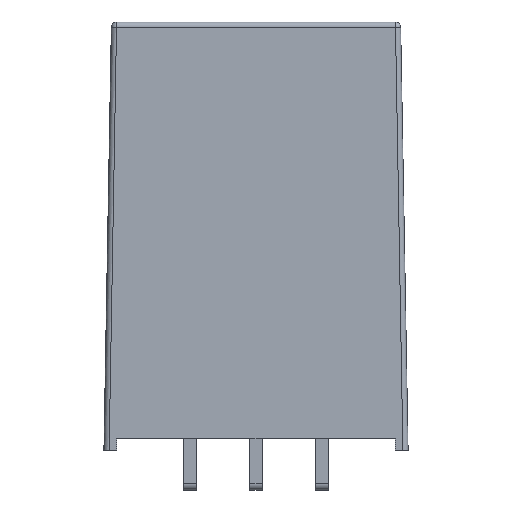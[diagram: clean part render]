
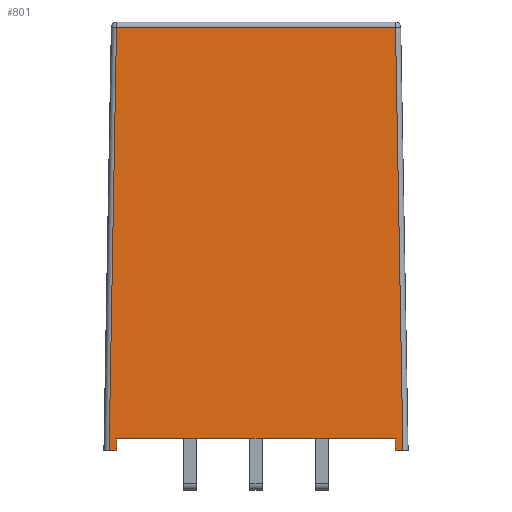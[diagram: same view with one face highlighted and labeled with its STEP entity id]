
A CAD part, front view. The second image highlights one B-rep face of the part: STEP entity #801.
In plain terms, the highlighted planar face has unit normal (0, -1, 0.018).
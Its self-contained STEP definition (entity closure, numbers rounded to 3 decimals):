
#39 = FACE_OUTER_BOUND ( 'NONE', #1576, .T. ) ;
#53 = VECTOR ( 'NONE', #541, 1000. ) ;
#54 = LINE ( 'NONE', #944, #389 ) ;
#98 = DIRECTION ( 'NONE',  ( 0., -0.017, -1. ) ) ;
#121 = CARTESIAN_POINT ( 'NONE',  ( 5.65, -3.75, 0. ) ) ;
#125 = VECTOR ( 'NONE', #1278, 1000. ) ;
#156 = VERTEX_POINT ( 'NONE', #1426 ) ;
#165 = CARTESIAN_POINT ( 'NONE',  ( 5.35, -3.75, 0. ) ) ;
#188 = VERTEX_POINT ( 'NONE', #760 ) ;
#189 = ORIENTED_EDGE ( 'NONE', *, *, #1603, .T. ) ;
#198 = DIRECTION ( 'NONE',  ( 0., 0.017, 1. ) ) ;
#252 = EDGE_CURVE ( 'NONE', #1053, #740, #1658, .T. ) ;
#294 = LINE ( 'NONE', #1640, #701 ) ;
#319 = VECTOR ( 'NONE', #198, 1000. ) ;
#320 = LINE ( 'NONE', #1713, #1704 ) ;
#389 = VECTOR ( 'NONE', #1342, 1000. ) ;
#397 = AXIS2_PLACEMENT_3D ( 'NONE', #1692, #1445, #447 ) ;
#447 = DIRECTION ( 'NONE',  ( 0., -0.017, -1. ) ) ;
#452 = EDGE_CURVE ( 'NONE', #156, #188, #320, .T. ) ;
#480 = LINE ( 'NONE', #878, #125 ) ;
#502 = EDGE_CURVE ( 'NONE', #1645, #156, #1671, .T. ) ;
#541 = DIRECTION ( 'NONE',  ( -0.017, 0.017, 1. ) ) ;
#546 = EDGE_CURVE ( 'NONE', #188, #1563, #1051, .T. ) ;
#590 = ORIENTED_EDGE ( 'NONE', *, *, #546, .T. ) ;
#592 = VECTOR ( 'NONE', #98, 1000. ) ;
#619 = CARTESIAN_POINT ( 'NONE',  ( -5.365, -3.465, 16.303 ) ) ;
#638 = VECTOR ( 'NONE', #1107, 1000. ) ;
#681 = EDGE_CURVE ( 'NONE', #1641, #1645, #480, .T. ) ;
#693 = CARTESIAN_POINT ( 'NONE',  ( 5.35, -3.75, 0. ) ) ;
#701 = VECTOR ( 'NONE', #798, 1000. ) ;
#740 = VERTEX_POINT ( 'NONE', #165 ) ;
#744 = LINE ( 'NONE', #1075, #53 ) ;
#747 = EDGE_CURVE ( 'NONE', #789, #1641, #744, .T. ) ;
#760 = CARTESIAN_POINT ( 'NONE',  ( -5.35, -3.75, 0. ) ) ;
#789 = VERTEX_POINT ( 'NONE', #121 ) ;
#798 = DIRECTION ( 'NONE',  ( 1., 0., 0. ) ) ;
#801 = ADVANCED_FACE ( 'NONE', ( #39 ), #1137, .T. ) ;
#878 = CARTESIAN_POINT ( 'NONE',  ( 0., -3.465, 16.303 ) ) ;
#926 = CARTESIAN_POINT ( 'NONE',  ( 5.35, -3.741, 0.5 ) ) ;
#944 = CARTESIAN_POINT ( 'NONE',  ( 0., -3.75, 0. ) ) ;
#1051 = LINE ( 'NONE', #1168, #319 ) ;
#1053 = VERTEX_POINT ( 'NONE', #926 ) ;
#1075 = CARTESIAN_POINT ( 'NONE',  ( 5.648, -3.748, 0.099 ) ) ;
#1105 = ORIENTED_EDGE ( 'NONE', *, *, #681, .T. ) ;
#1107 = DIRECTION ( 'NONE',  ( -0.017, -0.017, -1. ) ) ;
#1124 = EDGE_CURVE ( 'NONE', #740, #789, #54, .T. ) ;
#1137 = PLANE ( 'NONE',  #397 ) ;
#1168 = CARTESIAN_POINT ( 'NONE',  ( -5.35, -3.75, 0. ) ) ;
#1174 = ORIENTED_EDGE ( 'NONE', *, *, #252, .T. ) ;
#1190 = CARTESIAN_POINT ( 'NONE',  ( -5.648, -3.748, 0.099 ) ) ;
#1270 = ORIENTED_EDGE ( 'NONE', *, *, #747, .T. ) ;
#1278 = DIRECTION ( 'NONE',  ( -1., 0., 0. ) ) ;
#1323 = ORIENTED_EDGE ( 'NONE', *, *, #502, .T. ) ;
#1342 = DIRECTION ( 'NONE',  ( 1., 0., 0. ) ) ;
#1426 = CARTESIAN_POINT ( 'NONE',  ( -5.65, -3.75, 0. ) ) ;
#1445 = DIRECTION ( 'NONE',  ( 0., -1., 0.017 ) ) ;
#1456 = DIRECTION ( 'NONE',  ( 1., 0., 0. ) ) ;
#1473 = CARTESIAN_POINT ( 'NONE',  ( -5.35, -3.741, 0.5 ) ) ;
#1526 = ORIENTED_EDGE ( 'NONE', *, *, #1124, .T. ) ;
#1563 = VERTEX_POINT ( 'NONE', #1473 ) ;
#1576 = EDGE_LOOP ( 'NONE', ( #1105, #1323, #1674, #590, #189, #1174, #1526, #1270 ) ) ;
#1603 = EDGE_CURVE ( 'NONE', #1563, #1053, #294, .T. ) ;
#1613 = CARTESIAN_POINT ( 'NONE',  ( 5.365, -3.465, 16.303 ) ) ;
#1640 = CARTESIAN_POINT ( 'NONE',  ( 0., -3.741, 0.5 ) ) ;
#1641 = VERTEX_POINT ( 'NONE', #1613 ) ;
#1645 = VERTEX_POINT ( 'NONE', #619 ) ;
#1658 = LINE ( 'NONE', #693, #592 ) ;
#1671 = LINE ( 'NONE', #1190, #638 ) ;
#1674 = ORIENTED_EDGE ( 'NONE', *, *, #452, .T. ) ;
#1692 = CARTESIAN_POINT ( 'NONE',  ( 0., -3.75, 0. ) ) ;
#1704 = VECTOR ( 'NONE', #1456, 1000. ) ;
#1713 = CARTESIAN_POINT ( 'NONE',  ( 0., -3.75, 0. ) ) ;
